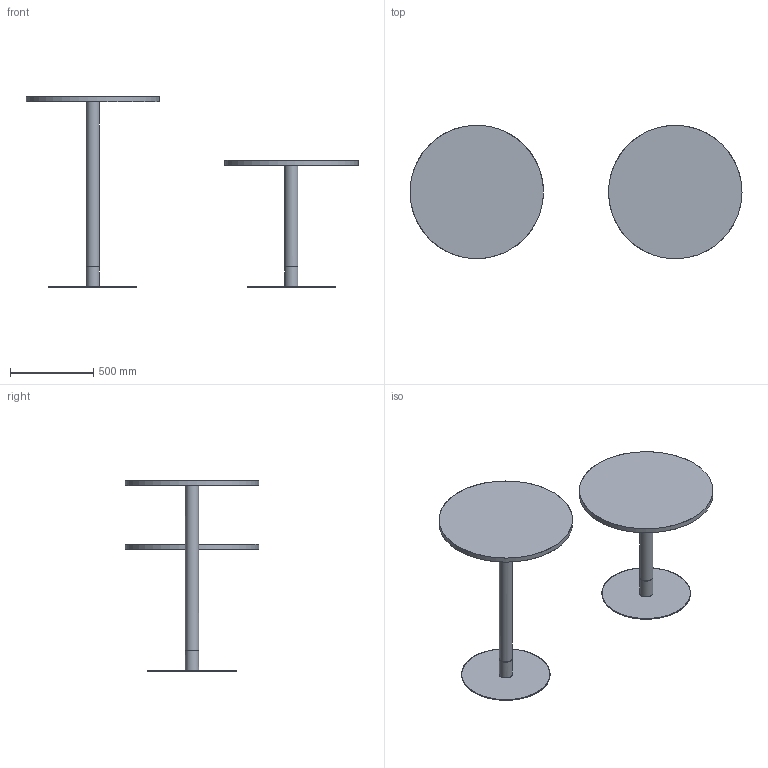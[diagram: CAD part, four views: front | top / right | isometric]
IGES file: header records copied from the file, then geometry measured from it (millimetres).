
Global section: file name: \\192.168.4.99\ufficio_tecnico\02 - PRODOTTI IN PRODUZIONE\COGNAC\03 - DISEGNI 3D\MODELLI 3D PER SITO INTERNET\COGNAC.igs; native system: Rhinoceros ( Dec 14 2018 ); preprocessor: Trout Lake IGES 012 Dec 14 2018; date: 190325.140749; units: centimetre
Bounding box: 1990 x 800 x 1140 mm (x, y, z)
Surface area: 3559988.1 mm2 (no closed solid volume)
Topology: 0 solids, 0 shells, 32 faces, 256 edges, 244 vertices
Faces by surface type: bspline 32
